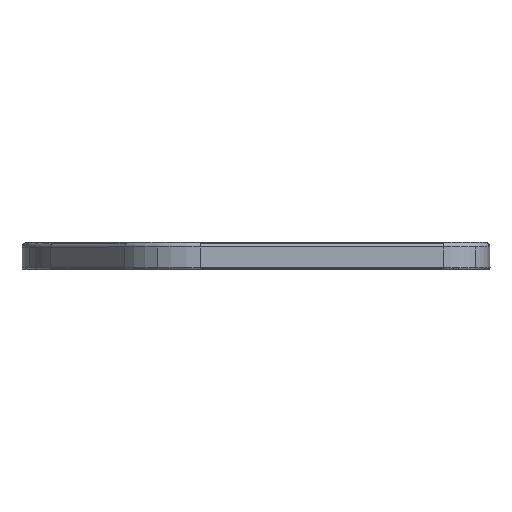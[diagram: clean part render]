
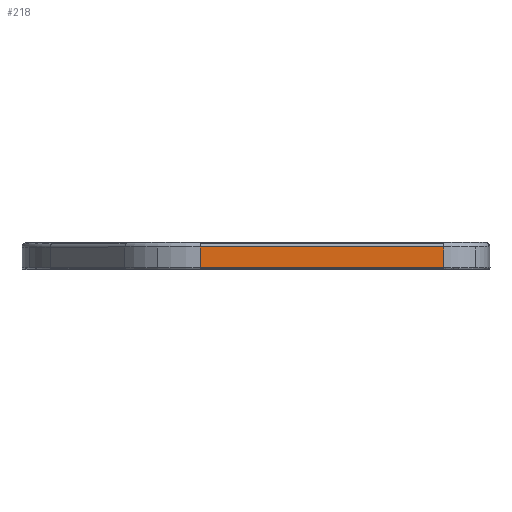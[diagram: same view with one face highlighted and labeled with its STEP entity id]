
A CAD part, left-side view. The second image highlights one B-rep face of the part: STEP entity #218.
In plain terms, the highlighted planar face has unit normal (-1, 0.003, 0).
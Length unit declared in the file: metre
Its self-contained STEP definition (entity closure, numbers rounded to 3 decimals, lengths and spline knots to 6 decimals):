
#218=ADVANCED_FACE('0:311',(#589),#590,.T.);
#589=FACE_OUTER_BOUND('',#968,.T.);
#590=PLANE('',#969);
#968=EDGE_LOOP('',(#2351,#2352,#2353,#2354));
#969=AXIS2_PLACEMENT_3D('',#2355,#2356,#2357);
#2351=ORIENTED_EDGE('',*,*,#2773,.F.);
#2352=ORIENTED_EDGE('',*,*,#2841,.F.);
#2353=ORIENTED_EDGE('',*,*,#2535,.F.);
#2354=ORIENTED_EDGE('',*,*,#2853,.F.);
#2355=CARTESIAN_POINT('',(-0.011746,0.024486,0.000001));
#2356=DIRECTION('',(-1.,0.003,0.));
#2357=DIRECTION('',(0.003,1.,0.));
#2535=EDGE_CURVE('0:701',#3084,#3101,#3102,.T.);
#2773=EDGE_CURVE('0:542',#3489,#3206,#3493,.T.);
#2841=EDGE_CURVE('0:848',#3101,#3489,#3572,.T.);
#2853=EDGE_CURVE('0:905',#3206,#3084,#3584,.T.);
#3084=VERTEX_POINT('',#3859);
#3101=VERTEX_POINT('',#3879);
#3102=LINE('',#3880,#3881);
#3206=VERTEX_POINT('',#4004);
#3489=VERTEX_POINT('',#4345);
#3493=LINE('',#4349,#4350);
#3572=LINE('',#4446,#4447);
#3584=LINE('',#4461,#4462);
#3859=CARTESIAN_POINT('',(-0.011766,0.017486,-0.000898));
#3879=CARTESIAN_POINT('',(-0.01169,0.044555,-0.0009));
#3880=CARTESIAN_POINT('',(-0.011725,0.031861,-0.000899));
#3881=VECTOR('',#4752,1.0);
#4004=CARTESIAN_POINT('',(-0.011765,0.017486,0.001352));
#4345=CARTESIAN_POINT('',(-0.011689,0.044555,0.00135));
#4349=CARTESIAN_POINT('',(-0.011725,0.031861,0.001351));
#4350=VECTOR('',#5310,1.0);
#4446=CARTESIAN_POINT('',(-0.011689,0.044555,0.));
#4447=VECTOR('',#5478,1.0);
#4461=CARTESIAN_POINT('',(-0.011765,0.017486,0.000002));
#4462=VECTOR('',#5508,1.0);
#4752=DIRECTION('',(0.003,1.,0.));
#5310=DIRECTION('',(-0.003,-1.,0.));
#5478=DIRECTION('',(0.,0.,1.));
#5508=DIRECTION('',(0.,0.,-1.));
